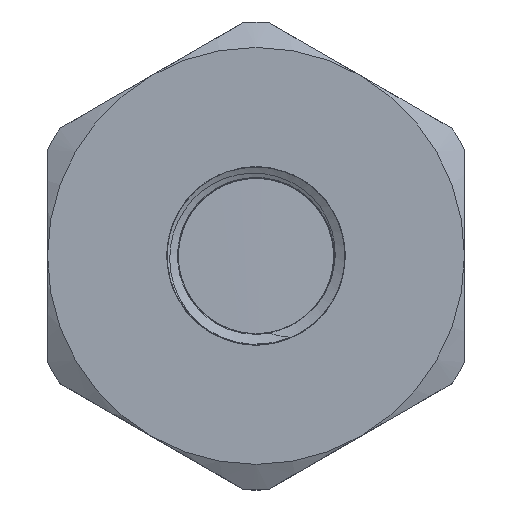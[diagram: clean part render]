
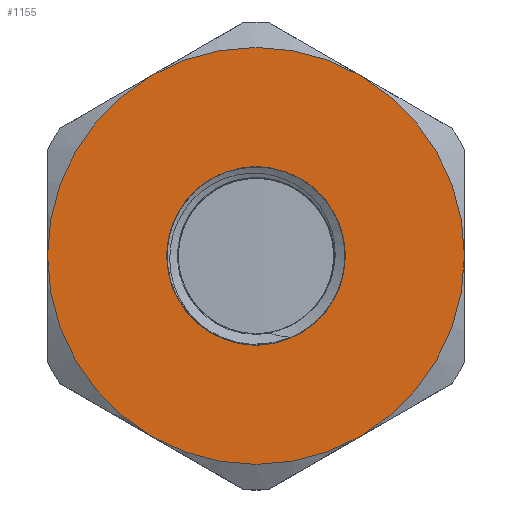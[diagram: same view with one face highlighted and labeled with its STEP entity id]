
A CAD part, top view. The second image highlights one B-rep face of the part: STEP entity #1155.
In plain terms, the highlighted planar face has unit normal (0, 0, 1).
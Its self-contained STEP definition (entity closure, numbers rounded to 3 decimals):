
#114=FACE_BOUND('',#348,.T.);
#250=PLANE('',#1269);
#277=FACE_OUTER_BOUND('',#347,.T.);
#347=EDGE_LOOP('',(#849,#850,#851,#852,#853,#854));
#348=EDGE_LOOP('',(#855,#856));
#404=CIRCLE('',#1228,24.5);
#406=CIRCLE('',#1231,24.5);
#408=CIRCLE('',#1234,24.5);
#409=CIRCLE('',#1236,24.5);
#411=CIRCLE('',#1239,24.5);
#413=CIRCLE('',#1242,24.5);
#426=CIRCLE('',#1270,10.475);
#427=CIRCLE('',#1271,10.475);
#460=VERTEX_POINT('',#1578);
#462=VERTEX_POINT('',#1584);
#464=VERTEX_POINT('',#1591);
#467=VERTEX_POINT('',#1603);
#470=VERTEX_POINT('',#1618);
#473=VERTEX_POINT('',#1630);
#494=VERTEX_POINT('',#1710);
#495=VERTEX_POINT('',#1711);
#583=EDGE_CURVE('',#460,#462,#404,.T.);
#587=EDGE_CURVE('',#464,#460,#406,.T.);
#591=EDGE_CURVE('',#467,#464,#408,.T.);
#593=EDGE_CURVE('',#470,#467,#409,.T.);
#597=EDGE_CURVE('',#473,#470,#411,.T.);
#601=EDGE_CURVE('',#462,#473,#413,.T.);
#634=EDGE_CURVE('',#494,#495,#426,.T.);
#635=EDGE_CURVE('',#495,#494,#427,.T.);
#849=ORIENTED_EDGE('',*,*,#601,.T.);
#850=ORIENTED_EDGE('',*,*,#597,.T.);
#851=ORIENTED_EDGE('',*,*,#593,.T.);
#852=ORIENTED_EDGE('',*,*,#591,.T.);
#853=ORIENTED_EDGE('',*,*,#587,.T.);
#854=ORIENTED_EDGE('',*,*,#583,.T.);
#855=ORIENTED_EDGE('',*,*,#634,.F.);
#856=ORIENTED_EDGE('',*,*,#635,.F.);
#1155=ADVANCED_FACE('',(#277,#114),#250,.T.);
#1228=AXIS2_PLACEMENT_3D('',#1588,#1333,#1334);
#1231=AXIS2_PLACEMENT_3D('',#1600,#1339,#1340);
#1234=AXIS2_PLACEMENT_3D('',#1612,#1345,#1346);
#1236=AXIS2_PLACEMENT_3D('',#1619,#1349,#1350);
#1239=AXIS2_PLACEMENT_3D('',#1631,#1355,#1356);
#1242=AXIS2_PLACEMENT_3D('',#1642,#1361,#1362);
#1269=AXIS2_PLACEMENT_3D('',#1709,#1434,#1435);
#1270=AXIS2_PLACEMENT_3D('',#1712,#1436,#1437);
#1271=AXIS2_PLACEMENT_3D('',#1713,#1438,#1439);
#1333=DIRECTION('center_axis',(0.,0.,1.));
#1334=DIRECTION('ref_axis',(0.,1.,0.));
#1339=DIRECTION('center_axis',(0.,0.,1.));
#1340=DIRECTION('ref_axis',(0.,1.,0.));
#1345=DIRECTION('center_axis',(0.,0.,1.));
#1346=DIRECTION('ref_axis',(0.,1.,0.));
#1349=DIRECTION('center_axis',(0.,0.,1.));
#1350=DIRECTION('ref_axis',(0.,1.,0.));
#1355=DIRECTION('center_axis',(0.,0.,1.));
#1356=DIRECTION('ref_axis',(0.,1.,0.));
#1361=DIRECTION('center_axis',(0.,0.,1.));
#1362=DIRECTION('ref_axis',(0.,1.,0.));
#1434=DIRECTION('center_axis',(0.,0.,1.));
#1435=DIRECTION('ref_axis',(1.,0.,0.));
#1436=DIRECTION('center_axis',(0.,0.,1.));
#1437=DIRECTION('ref_axis',(1.,0.,0.));
#1438=DIRECTION('center_axis',(0.,0.,1.));
#1439=DIRECTION('ref_axis',(1.,0.,0.));
#1578=CARTESIAN_POINT('',(-12.25,21.218,24.5));
#1584=CARTESIAN_POINT('',(-24.5,0.,24.5));
#1588=CARTESIAN_POINT('Origin',(0.,0.,24.5));
#1591=CARTESIAN_POINT('',(12.25,21.218,24.5));
#1600=CARTESIAN_POINT('Origin',(0.,0.,24.5));
#1603=CARTESIAN_POINT('',(24.5,0.,24.5));
#1612=CARTESIAN_POINT('Origin',(0.,0.,24.5));
#1618=CARTESIAN_POINT('',(12.25,-21.218,24.5));
#1619=CARTESIAN_POINT('Origin',(0.,0.,24.5));
#1630=CARTESIAN_POINT('',(-12.25,-21.218,24.5));
#1631=CARTESIAN_POINT('Origin',(0.,0.,24.5));
#1642=CARTESIAN_POINT('Origin',(0.,0.,24.5));
#1709=CARTESIAN_POINT('Origin',(0.,-10.475,24.5));
#1710=CARTESIAN_POINT('',(0.,-10.475,24.5));
#1711=CARTESIAN_POINT('',(0.,10.475,24.5));
#1712=CARTESIAN_POINT('Origin',(0.,0.,24.5));
#1713=CARTESIAN_POINT('Origin',(0.,0.,24.5));
